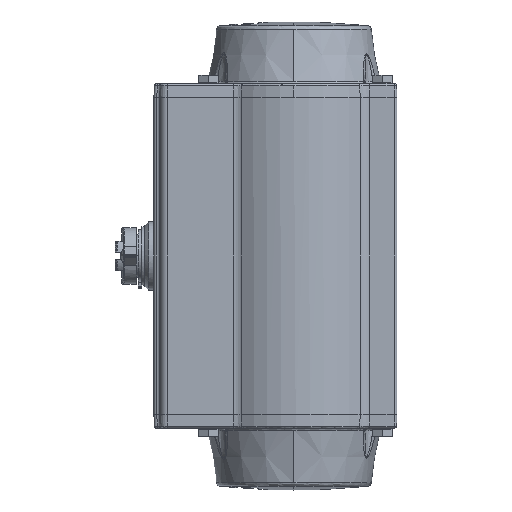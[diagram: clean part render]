
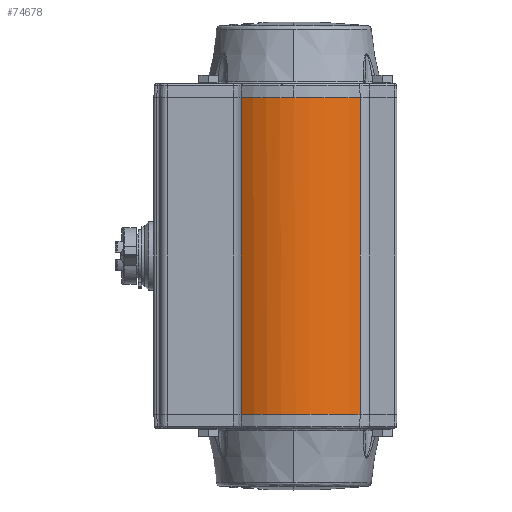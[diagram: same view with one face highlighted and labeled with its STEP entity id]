
A CAD part, left-side view. The second image highlights one B-rep face of the part: STEP entity #74678.
In plain terms, the highlighted cylindrical face has radius 47.5 mm (diameter 95 mm), a partial arc.
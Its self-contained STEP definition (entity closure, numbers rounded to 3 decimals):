
#7360 = EDGE_CURVE ( 'NONE', #95965, #96025, #75549, .T. ) ;
#12177 = AXIS2_PLACEMENT_3D ( 'NONE', #17213, #17202, #17201 ) ;
#12312 = AXIS2_PLACEMENT_3D ( 'NONE', #44764, #44767, #44768 ) ;
#17201 = DIRECTION ( 'NONE',  ( 0., -1., 0. ) ) ;
#17202 = DIRECTION ( 'NONE',  ( 0., 0., 1. ) ) ;
#17213 = CARTESIAN_POINT ( 'NONE',  ( 0., 0., -81.5 ) ) ;
#22848 = ORIENTED_EDGE ( 'NONE', *, *, #76388, .F. ) ;
#22882 = ORIENTED_EDGE ( 'NONE', *, *, #53750, .T. ) ;
#22892 = ORIENTED_EDGE ( 'NONE', *, *, #76049, .T. ) ;
#22943 = ORIENTED_EDGE ( 'NONE', *, *, #75983, .F. ) ;
#23007 = ORIENTED_EDGE ( 'NONE', *, *, #7360, .F. ) ;
#23638 = CYLINDRICAL_SURFACE ( 'NONE', #12177, 47.5 ) ;
#23822 = FACE_OUTER_BOUND ( 'NONE', #39051, .T. ) ;
#24084 = CARTESIAN_POINT ( 'NONE',  ( -33.119, -34.049, 81.5 ) ) ;
#24870 = CARTESIAN_POINT ( 'NONE',  ( -47.5, 0., 81.5 ) ) ;
#28057 = DIRECTION ( 'NONE',  ( 0., 0., -1. ) ) ;
#28062 = DIRECTION ( 'NONE',  ( 1., 0., 0. ) ) ;
#28131 = CARTESIAN_POINT ( 'NONE',  ( 0., 0., -81.5 ) ) ;
#34796 = DIRECTION ( 'NONE',  ( 0., -1., 0. ) ) ;
#34979 = DIRECTION ( 'NONE',  ( 0., 0., -1. ) ) ;
#35025 = CARTESIAN_POINT ( 'NONE',  ( 0., 0., 81.5 ) ) ;
#37374 = LINE ( 'NONE', #41167, #37379 ) ;
#37379 = VECTOR ( 'NONE', #41168, 1000. ) ;
#37487 = CIRCLE ( 'NONE', #12312, 47.5 ) ;
#39051 = EDGE_LOOP ( 'NONE', ( #22882, #22892, #22943, #23007, #22848 ) ) ;
#40645 = VERTEX_POINT ( 'NONE', #24870 ) ;
#41015 = VERTEX_POINT ( 'NONE', #24084 ) ;
#41167 = CARTESIAN_POINT ( 'NONE',  ( -39.046, 27.049, 0. ) ) ;
#41168 = DIRECTION ( 'NONE',  ( 0., 0., 1. ) ) ;
#44764 = CARTESIAN_POINT ( 'NONE',  ( 0., 0., 81.5 ) ) ;
#44767 = DIRECTION ( 'NONE',  ( 0., 0., -1. ) ) ;
#44768 = DIRECTION ( 'NONE',  ( 0., -1., 0. ) ) ;
#47324 = LINE ( 'NONE', #64017, #47343 ) ;
#47343 = VECTOR ( 'NONE', #64018, 1000. ) ;
#47745 = AXIS2_PLACEMENT_3D ( 'NONE', #28131, #28057, #28062 ) ;
#53750 = EDGE_CURVE ( 'NONE', #41015, #40645, #79196, .T. ) ;
#64017 = CARTESIAN_POINT ( 'NONE',  ( -33.119, -34.049, 0. ) ) ;
#64018 = DIRECTION ( 'NONE',  ( 0., 0., -1. ) ) ;
#74678 = ADVANCED_FACE ( 'NONE', ( #23822 ), #23638, .T. ) ;
#75549 = CIRCLE ( 'NONE', #47745, 47.5 ) ;
#75983 = EDGE_CURVE ( 'NONE', #96025, #96155, #37374, .T. ) ;
#76049 = EDGE_CURVE ( 'NONE', #40645, #96155, #37487, .T. ) ;
#76388 = EDGE_CURVE ( 'NONE', #41015, #95965, #47324, .T. ) ;
#79196 = CIRCLE ( 'NONE', #91516, 47.5 ) ;
#91516 = AXIS2_PLACEMENT_3D ( 'NONE', #35025, #34979, #34796 ) ;
#92082 = CARTESIAN_POINT ( 'NONE',  ( -33.119, -34.049, -81.5 ) ) ;
#92160 = CARTESIAN_POINT ( 'NONE',  ( -39.046, 27.049, -81.5 ) ) ;
#92327 = CARTESIAN_POINT ( 'NONE',  ( -39.046, 27.049, 81.5 ) ) ;
#95965 = VERTEX_POINT ( 'NONE', #92082 ) ;
#96025 = VERTEX_POINT ( 'NONE', #92160 ) ;
#96155 = VERTEX_POINT ( 'NONE', #92327 ) ;
